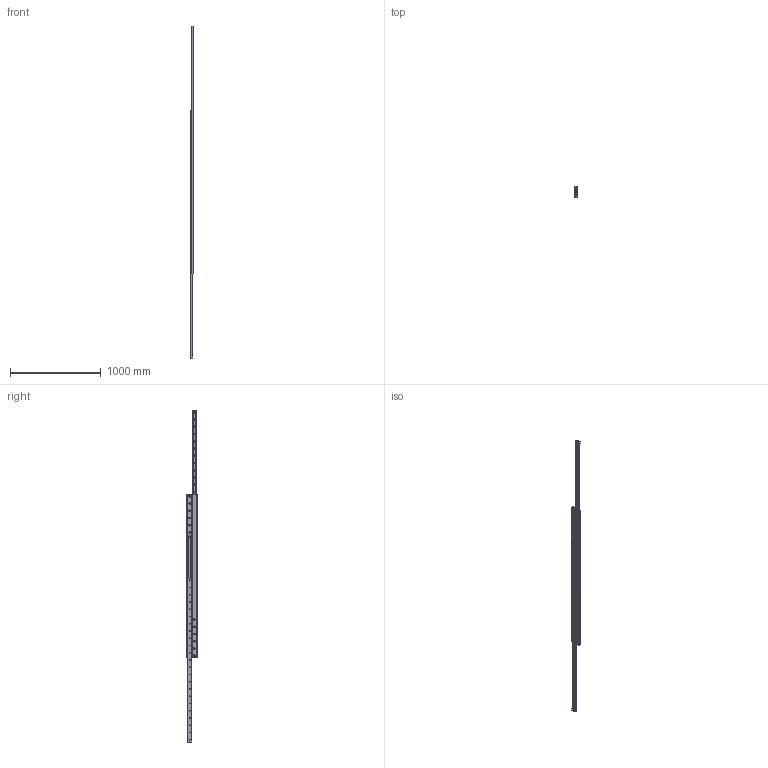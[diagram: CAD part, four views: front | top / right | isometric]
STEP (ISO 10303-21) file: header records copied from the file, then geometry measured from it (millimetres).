
FILE_DESCRIPTION(('STEP AP214'),'1');
FILE_NAME('rail_dss43-1810_01.stp','2017-04-17T03:59:37',('TraceParts'),('TraceParts S.A.'),'Spatial InterOp 3D',' ',' ');
FILE_SCHEMA(('automotive_design'));
Length unit declared in the file: millimetre
Products named in the file (3): rail_dss43-1810_01_1; rail_dss43-1810_01_2; rail_dss43-1810_01_3
Bounding box: 28 x 120 x 3666 mm (x, y, z)
Volume: 3206988.4 mm3; surface area: 1290086.5 mm2
Topology: 3 solids, 3 shells, 398 faces, 1054 edges, 672 vertices
Faces by surface type: cylinder 168, plane 138, cone 92
Entity records: 12663 total; most frequent: DIRECTION 2300, CARTESIAN_POINT 2127, ORIENTED_EDGE 2108, EDGE_CURVE 1054, AXIS2_PLACEMENT_3D 845, VERTEX_POINT 672, LINE 610, VECTOR 610
